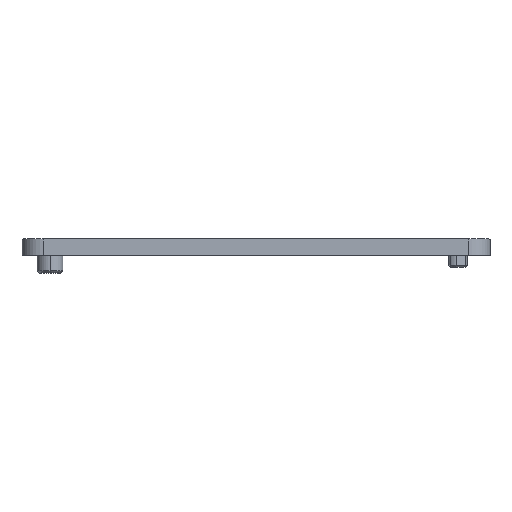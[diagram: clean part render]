
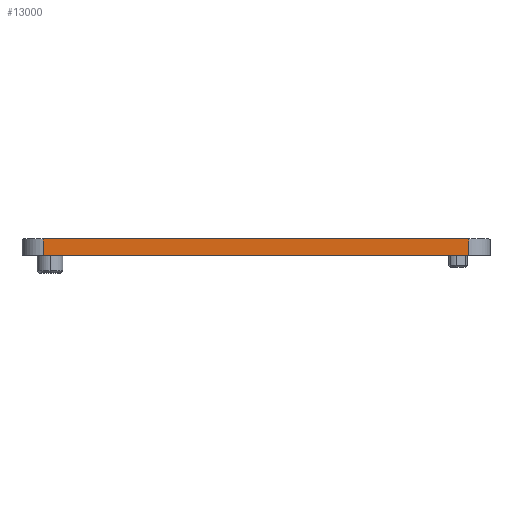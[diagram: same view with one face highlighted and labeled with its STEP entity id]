
A CAD part, top view. The second image highlights one B-rep face of the part: STEP entity #13000.
In plain terms, the highlighted planar face has unit normal (0, 0, 1).
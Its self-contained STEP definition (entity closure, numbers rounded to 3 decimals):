
#52 = EDGE_CURVE ( 'NONE', #12907, #13367, #4063, .T. ) ;
#807 = DIRECTION ( 'NONE',  ( 1., 0., 0. ) ) ;
#1730 = ORIENTED_EDGE ( 'NONE', *, *, #12441, .T. ) ;
#1866 = DIRECTION ( 'NONE',  ( 0., 0., -1. ) ) ;
#3517 = DIRECTION ( 'NONE',  ( 0., 1., 0. ) ) ;
#4063 = LINE ( 'NONE', #4464, #7311 ) ;
#4110 = LINE ( 'NONE', #5951, #15850 ) ;
#4464 = CARTESIAN_POINT ( 'NONE',  ( -17.35, 1.219, 8.9 ) ) ;
#5533 = CARTESIAN_POINT ( 'NONE',  ( -17.35, 0., 8.9 ) ) ;
#5631 = PLANE ( 'NONE',  #14142 ) ;
#5951 = CARTESIAN_POINT ( 'NONE',  ( -15.75, 1.219, 8.9 ) ) ;
#6106 = LINE ( 'NONE', #5533, #14087 ) ;
#7034 = CARTESIAN_POINT ( 'NONE',  ( -15.75, 1.219, 8.9 ) ) ;
#7074 = VERTEX_POINT ( 'NONE', #15039 ) ;
#7311 = VECTOR ( 'NONE', #20624, 1000. ) ;
#7559 = DIRECTION ( 'NONE',  ( 0., -1., 0. ) ) ;
#9193 = ORIENTED_EDGE ( 'NONE', *, *, #11629, .T. ) ;
#9848 = CARTESIAN_POINT ( 'NONE',  ( 16.05, 1.219, 8.9 ) ) ;
#9958 = ORIENTED_EDGE ( 'NONE', *, *, #16066, .T. ) ;
#10479 = CARTESIAN_POINT ( 'NONE',  ( -17.35, 1.219, 8.9 ) ) ;
#10645 = LINE ( 'NONE', #9848, #18601 ) ;
#11629 = EDGE_CURVE ( 'NONE', #18195, #13367, #10645, .T. ) ;
#12441 = EDGE_CURVE ( 'NONE', #7074, #18195, #6106, .T. ) ;
#12907 = VERTEX_POINT ( 'NONE', #7034 ) ;
#13000 = ADVANCED_FACE ( 'NONE', ( #15480 ), #5631, .F. ) ;
#13021 = DIRECTION ( 'NONE',  ( -1., 0., 0. ) ) ;
#13066 = ORIENTED_EDGE ( 'NONE', *, *, #52, .F. ) ;
#13367 = VERTEX_POINT ( 'NONE', #20258 ) ;
#14087 = VECTOR ( 'NONE', #807, 1000. ) ;
#14142 = AXIS2_PLACEMENT_3D ( 'NONE', #10479, #1866, #13021 ) ;
#15039 = CARTESIAN_POINT ( 'NONE',  ( -15.75, 0., 8.9 ) ) ;
#15480 = FACE_OUTER_BOUND ( 'NONE', #18309, .T. ) ;
#15850 = VECTOR ( 'NONE', #7559, 1000. ) ;
#16066 = EDGE_CURVE ( 'NONE', #12907, #7074, #4110, .T. ) ;
#16740 = CARTESIAN_POINT ( 'NONE',  ( 16.05, 0., 8.9 ) ) ;
#18195 = VERTEX_POINT ( 'NONE', #16740 ) ;
#18309 = EDGE_LOOP ( 'NONE', ( #1730, #9193, #13066, #9958 ) ) ;
#18601 = VECTOR ( 'NONE', #3517, 1000. ) ;
#20258 = CARTESIAN_POINT ( 'NONE',  ( 16.05, 1.219, 8.9 ) ) ;
#20624 = DIRECTION ( 'NONE',  ( 1., 0., 0. ) ) ;
